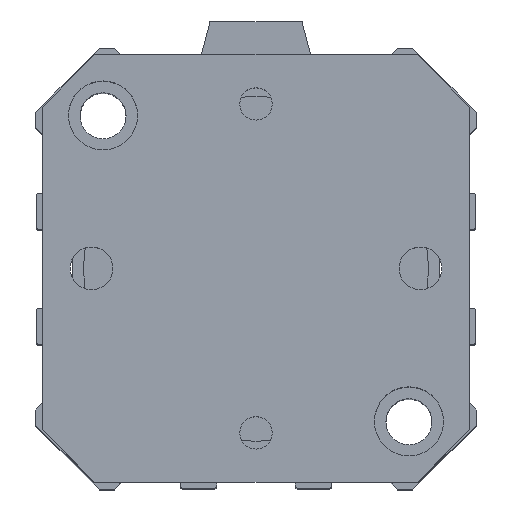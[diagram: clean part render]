
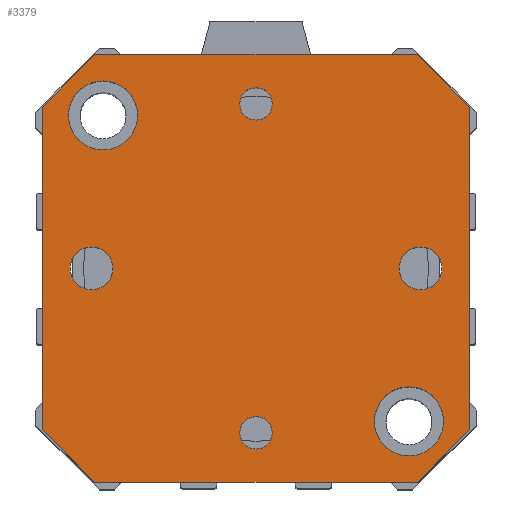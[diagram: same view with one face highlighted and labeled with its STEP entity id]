
A CAD part, top view. The second image highlights one B-rep face of the part: STEP entity #3379.
In plain terms, the highlighted planar face has unit normal (0, 0, 1).
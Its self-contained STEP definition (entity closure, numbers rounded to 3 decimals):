
#265=LINE('',#5630,#519);
#267=LINE('',#5634,#521);
#269=LINE('',#5638,#523);
#271=LINE('',#5642,#525);
#273=LINE('',#5646,#527);
#275=LINE('',#5650,#529);
#277=LINE('',#5654,#531);
#279=LINE('',#5657,#533);
#519=VECTOR('',#4681,49.);
#521=VECTOR('',#4685,11.314);
#523=VECTOR('',#4689,49.);
#525=VECTOR('',#4693,11.314);
#527=VECTOR('',#4697,49.);
#529=VECTOR('',#4701,11.314);
#531=VECTOR('',#4705,49.);
#533=VECTOR('',#4709,11.314);
#627=PLANE('',#3743);
#716=FACE_BOUND('',#1138,.T.);
#717=FACE_BOUND('',#1139,.T.);
#718=FACE_BOUND('',#1140,.T.);
#719=FACE_BOUND('',#1141,.T.);
#720=FACE_BOUND('',#1142,.T.);
#721=FACE_BOUND('',#1143,.T.);
#722=FACE_BOUND('',#1144,.T.);
#1138=EDGE_LOOP('',(#2914));
#1139=EDGE_LOOP('',(#2915));
#1140=EDGE_LOOP('',(#2916));
#1141=EDGE_LOOP('',(#2917));
#1142=EDGE_LOOP('',(#2918));
#1143=EDGE_LOOP('',(#2919));
#1144=EDGE_LOOP('',(#2920,#2921,#2922,#2923,#2924,#2925,#2926,#2927));
#1309=CIRCLE('',#3699,2.459);
#1311=CIRCLE('',#3702,2.459);
#1316=CIRCLE('',#3710,3.25);
#1320=CIRCLE('',#3717,3.25);
#1329=CIRCLE('',#3732,5.25);
#1330=CIRCLE('',#3734,5.25);
#1601=VERTEX_POINT('',#5548);
#1603=VERTEX_POINT('',#5553);
#1608=VERTEX_POINT('',#5566);
#1612=VERTEX_POINT('',#5577);
#1631=VERTEX_POINT('',#5621);
#1632=VERTEX_POINT('',#5624);
#1633=VERTEX_POINT('',#5627);
#1634=VERTEX_POINT('',#5629);
#1635=VERTEX_POINT('',#5633);
#1636=VERTEX_POINT('',#5637);
#1637=VERTEX_POINT('',#5641);
#1638=VERTEX_POINT('',#5645);
#1639=VERTEX_POINT('',#5649);
#1640=VERTEX_POINT('',#5653);
#2025=EDGE_CURVE('',#1601,#1601,#1309,.T.);
#2027=EDGE_CURVE('',#1603,#1603,#1311,.T.);
#2032=EDGE_CURVE('',#1608,#1608,#1316,.T.);
#2036=EDGE_CURVE('',#1612,#1612,#1320,.T.);
#2055=EDGE_CURVE('',#1631,#1631,#1329,.T.);
#2056=EDGE_CURVE('',#1632,#1632,#1330,.T.);
#2058=EDGE_CURVE('',#1634,#1633,#265,.T.);
#2060=EDGE_CURVE('',#1635,#1634,#267,.T.);
#2062=EDGE_CURVE('',#1636,#1635,#269,.T.);
#2064=EDGE_CURVE('',#1637,#1636,#271,.T.);
#2066=EDGE_CURVE('',#1638,#1637,#273,.T.);
#2068=EDGE_CURVE('',#1639,#1638,#275,.T.);
#2070=EDGE_CURVE('',#1640,#1639,#277,.T.);
#2072=EDGE_CURVE('',#1633,#1640,#279,.T.);
#2914=ORIENTED_EDGE('',*,*,#2025,.T.);
#2915=ORIENTED_EDGE('',*,*,#2027,.T.);
#2916=ORIENTED_EDGE('',*,*,#2032,.T.);
#2917=ORIENTED_EDGE('',*,*,#2036,.T.);
#2918=ORIENTED_EDGE('',*,*,#2055,.T.);
#2919=ORIENTED_EDGE('',*,*,#2056,.T.);
#2920=ORIENTED_EDGE('',*,*,#2072,.T.);
#2921=ORIENTED_EDGE('',*,*,#2070,.T.);
#2922=ORIENTED_EDGE('',*,*,#2068,.T.);
#2923=ORIENTED_EDGE('',*,*,#2066,.T.);
#2924=ORIENTED_EDGE('',*,*,#2064,.T.);
#2925=ORIENTED_EDGE('',*,*,#2062,.T.);
#2926=ORIENTED_EDGE('',*,*,#2060,.T.);
#2927=ORIENTED_EDGE('',*,*,#2058,.T.);
#3379=ADVANCED_FACE('',(#716,#717,#718,#719,#720,#721,#722),#627,.T.);
#3699=AXIS2_PLACEMENT_3D('',#5549,#4596,#4597);
#3702=AXIS2_PLACEMENT_3D('',#5554,#4602,#4603);
#3710=AXIS2_PLACEMENT_3D('',#5567,#4618,#4619);
#3717=AXIS2_PLACEMENT_3D('',#5578,#4632,#4633);
#3732=AXIS2_PLACEMENT_3D('',#5622,#4672,#4673);
#3734=AXIS2_PLACEMENT_3D('',#5625,#4676,#4677);
#3743=AXIS2_PLACEMENT_3D('',#5658,#4710,#4711);
#4596=DIRECTION('center_axis',(0.,0.,-1.));
#4597=DIRECTION('ref_axis',(1.,0.,0.));
#4602=DIRECTION('center_axis',(0.,0.,-1.));
#4603=DIRECTION('ref_axis',(1.,0.,0.));
#4618=DIRECTION('center_axis',(0.,0.,-1.));
#4619=DIRECTION('ref_axis',(1.,0.,0.));
#4632=DIRECTION('center_axis',(0.,0.,-1.));
#4633=DIRECTION('ref_axis',(1.,0.,0.));
#4672=DIRECTION('center_axis',(0.,0.,-1.));
#4673=DIRECTION('ref_axis',(-1.,0.,0.));
#4676=DIRECTION('center_axis',(0.,0.,-1.));
#4677=DIRECTION('ref_axis',(-1.,0.,0.));
#4681=DIRECTION('',(0.,1.,0.));
#4685=DIRECTION('',(0.707,0.707,0.));
#4689=DIRECTION('',(1.,0.,0.));
#4693=DIRECTION('',(0.707,-0.707,0.));
#4697=DIRECTION('',(0.,-1.,0.));
#4701=DIRECTION('',(-0.707,-0.707,0.));
#4705=DIRECTION('',(-1.,0.,0.));
#4709=DIRECTION('',(-0.707,0.707,0.));
#4710=DIRECTION('center_axis',(0.,0.,1.));
#4711=DIRECTION('ref_axis',(1.,0.,0.));
#5548=CARTESIAN_POINT('',(-27.459,0.,82.));
#5549=CARTESIAN_POINT('Origin',(-25.,0.,82.));
#5553=CARTESIAN_POINT('',(22.542,0.,82.));
#5554=CARTESIAN_POINT('Origin',(25.,0.,82.));
#5566=CARTESIAN_POINT('',(-3.25,25.,82.));
#5567=CARTESIAN_POINT('Origin',(0.,25.,82.));
#5577=CARTESIAN_POINT('',(-3.25,-25.,82.));
#5578=CARTESIAN_POINT('Origin',(0.,-25.,82.));
#5621=CARTESIAN_POINT('',(-18.,-23.25,82.));
#5622=CARTESIAN_POINT('Origin',(-23.25,-23.25,82.));
#5624=CARTESIAN_POINT('',(28.5,23.25,82.));
#5625=CARTESIAN_POINT('Origin',(23.25,23.25,82.));
#5627=CARTESIAN_POINT('',(32.5,24.5,82.));
#5629=CARTESIAN_POINT('',(32.5,-24.5,82.));
#5630=CARTESIAN_POINT('',(32.5,24.5,82.));
#5633=CARTESIAN_POINT('',(24.5,-32.5,82.));
#5634=CARTESIAN_POINT('',(32.5,-24.5,82.));
#5637=CARTESIAN_POINT('',(-24.5,-32.5,82.));
#5638=CARTESIAN_POINT('',(24.5,-32.5,82.));
#5641=CARTESIAN_POINT('',(-32.5,-24.5,82.));
#5642=CARTESIAN_POINT('',(-24.5,-32.5,82.));
#5645=CARTESIAN_POINT('',(-32.5,24.5,82.));
#5646=CARTESIAN_POINT('',(-32.5,-24.5,82.));
#5649=CARTESIAN_POINT('',(-24.5,32.5,82.));
#5650=CARTESIAN_POINT('',(-32.5,24.5,82.));
#5653=CARTESIAN_POINT('',(24.5,32.5,82.));
#5654=CARTESIAN_POINT('',(-24.5,32.5,82.));
#5657=CARTESIAN_POINT('',(24.5,32.5,82.));
#5658=CARTESIAN_POINT('Origin',(0.,0.,82.));
